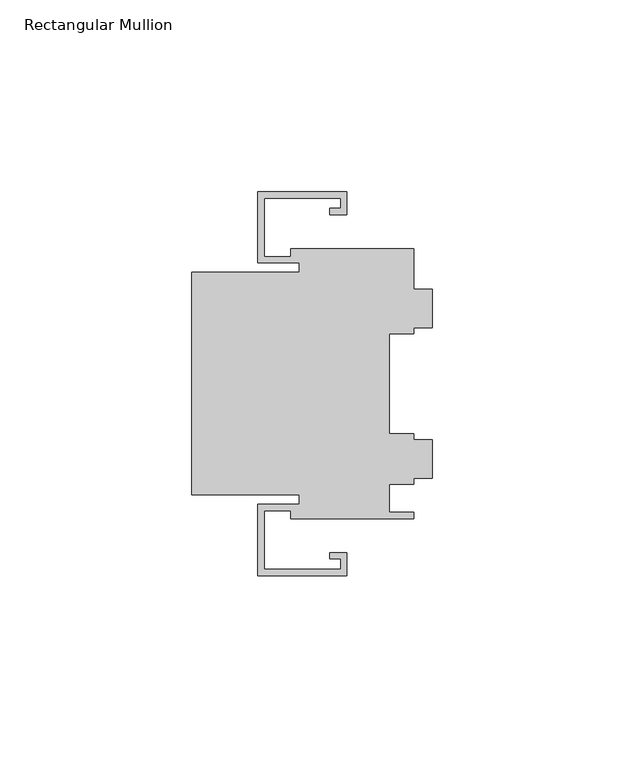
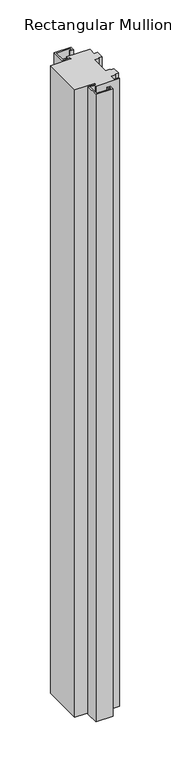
"""IFC4 building model written with IfcOpenShell, lengths in millimetres: member geometry, Rectangular Mullion : Frame-Teknion-OptosLP-Ceiling_Top_Spacer."""

from ifc_helpers import new_model, si_unit, frame, origin, place, context, project, spatial, polyline, outline, extrude, source, transform, mapped, element, save


def rectangular_mullion_7808c36e(model_context):
    return source(origin(), model_context, "Body", "SweptSolid", [
        extrude(outline(polyline([(-22.1967604, 49.9999002), (-22.1967604, 44.030901), (-26.6417618, 44.030901), (-26.6417618, 45.6819013), (-23.8477606, 45.6819013), (-23.8477606, 48.3488999), (-43.7867608, 48.3488999), (-43.7867608, 33.1089012), (-36.801761, 33.1089012), (-36.801761, 35.1409018), (-4.7977622, 35.1409018), (-4.7977622, 24.6315641), (0.0, 24.6315641), (0.0, 14.6103429), (-4.7762384, 14.6103429), (-4.7762384, 13.0810002), (-11.1477617, 13.0810002), (-11.1477617, -13.0810002), (-4.7977622, -13.0810002), (-4.7977622, -14.6111051), (0.0, -14.6111051), (0.0, -24.6323263), (-4.7977622, -24.6323263), (-4.7977622, -26.1620004), (-11.1450644, -26.1620004), (-11.1450644, -33.4899016), (-4.7762384, -33.4899016), (-4.7762384, -35.1409018), (-36.801761, -35.1409018), (-36.801761, -33.1089012), (-43.7867608, -33.1089012), (-43.7867608, -48.3488999), (-23.8477606, -48.3488999), (-23.8477606, -45.6819013), (-26.6417618, -45.6819013), (-26.6417618, -44.030901), (-22.1967604, -44.030901), (-22.1967604, -49.9999002), (-45.4377611, -49.9999002), (-45.4377611, -31.457901), (-34.6173606, -31.457901), (-34.6173606, -28.9941), (-62.608161, -28.9941), (-62.608161, 28.9941), (-34.6173606, 28.9941), (-34.6173606, 31.457901), (-45.4377611, 31.457901), (-45.4377611, 49.9999002), (-22.1967604, 49.9999002)])), frame((0.0, 0.0, -914.4), z_axis=(0.0, 0.0, 1.0), x_axis=(1.0, 0.0, 0.0)), (0.0, 0.0, 1.0), 914.4),
    ])


if __name__ == "__main__":
    model = new_model("IFC4")
    model_context = context("Model", 3, world=origin())
    ifc_project = project(units=[si_unit("LENGTHUNIT", "METRE", prefix="MILLI")], contexts=[model_context])
    site = spatial("IfcSite", under=ifc_project)
    building = spatial("IfcBuilding", under=site)
    placement = place(None, origin())
    rectangular_mullion_shape = rectangular_mullion_7808c36e(model_context)
    element("IfcMember", 1, ObjectType="Rectangular Mullion : Frame-Teknion-OptosLP-Ceiling_Top_Spacer", at=placement, inside=building, context=model_context, shape_type="MappedRepresentation", body=[
        mapped(rectangular_mullion_shape, transform((0.0, 0.0, 0.0), x_axis=(1.0, 0.0, 0.0), y_axis=(0.0, 1.0, 0.0), z_axis=(0.0, 0.0, 1.0))),
    ])
    save(model, "model.ifc")
